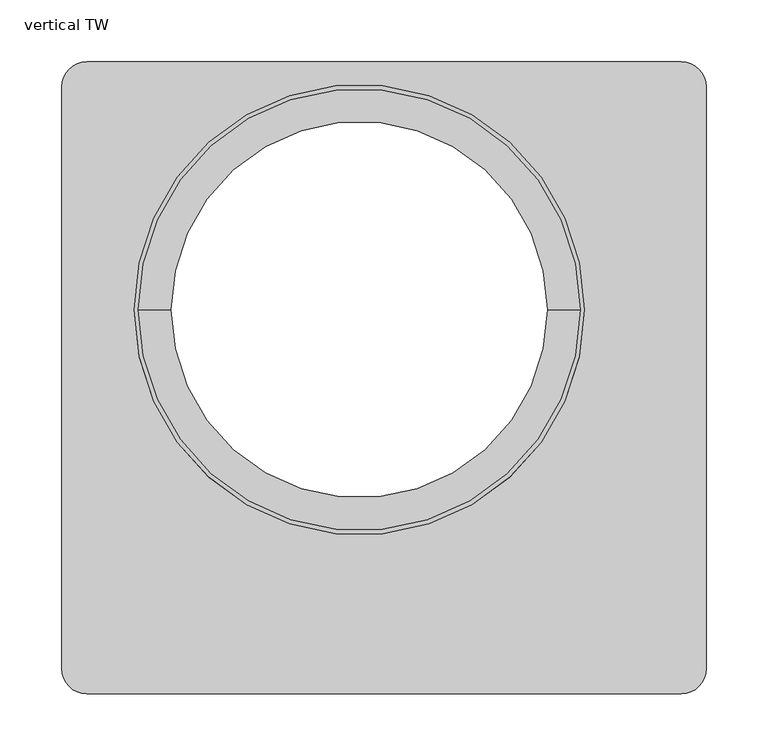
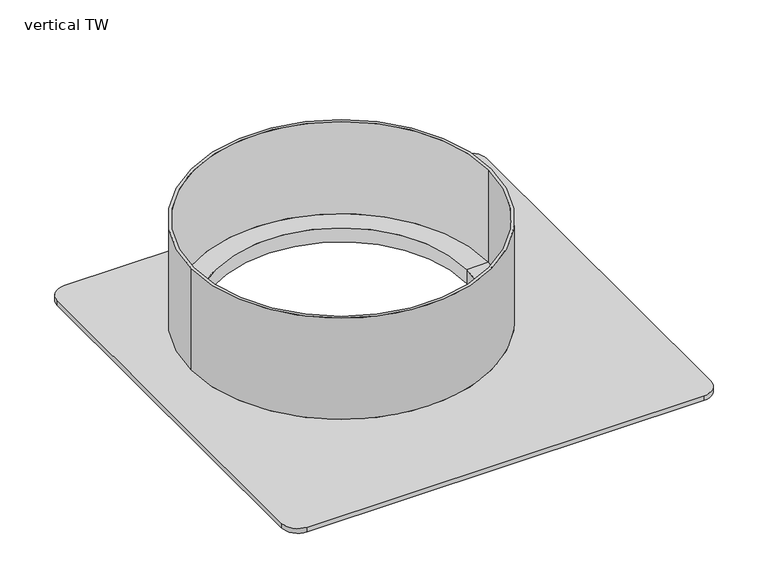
"""IFC4 building model written with IfcOpenShell, lengths in millimetres: unitary equipment geometry, Wavin_MechanicalEquipment_QBicPlusZDoNotUsePipeAdaptor : vertical TW."""

from ifc_helpers import new_model, si_unit, frame, origin, origin_with_axes, place, context, project, spatial, polyline, circle_curve, source, transform, mapped, element, save
from ifc_brep_helpers import plane_surface, cylinder_surface, revolved_surface, advanced_brep


def vertical_tw_6a955b7c(model_context):
    return source(origin(), model_context, "Body", "AdvancedBrep", [
        advanced_brep(
        [(260.0, 200.0, 6.0), (-220.0, 200.0, 6.0), (-240.0, 180.0, 6.0), (-240.0, -290.0, 6.0), (-220.0, -310.0, 6.0), (260.0, -310.0, 6.0), (280.0, -290.0, 6.0), (280.0, 180.0, 6.0), (181.75, 0.0, 6.0), (-181.75, 0.0, 6.0), (260.0, 200.0, 0.0), (-220.0, 200.0, 0.0), (-240.0, 180.0, 0.0), (-240.0, -290.0, 0.0), (-220.0, -310.0, 0.0), (260.0, -310.0, 0.0), (280.0, -290.0, 0.0), (280.0, 180.0, 0.0), (-181.75, 0.0, 136.0), (181.75, 0.0, 136.0), (-178.25, 0.0, 136.0), (178.25, 0.0, 136.0), (152.0, 0.0, 0.0), (-152.0, 0.0, 0.0), (178.25, 0.0, 18.0), (-178.25, 0.0, 18.0), (-152.0, 0.0, 18.0), (152.0, 0.0, 18.0), (-152.0, 0.0, 6.0), (152.0, 0.0, 6.0)],
        [
            (0, 1),
            (1, 2, circle_curve(frame((-220.0, 180.0, 6.0), z_axis=(0.0, 0.0, 1.0), x_axis=(1.0, 0.0, 0.0)), 20.0)),
            (2, 3),
            (3, 4, circle_curve(frame((-220.0, -290.0, 6.0), z_axis=(0.0, 0.0, 1.0), x_axis=(1.0, 0.0, 0.0)), 20.0)),
            (4, 5),
            (5, 6, circle_curve(frame((260.0, -290.0, 6.0), z_axis=(0.0, 0.0, 1.0), x_axis=(1.0, 0.0, 0.0)), 20.0)),
            (6, 7),
            (7, 0, circle_curve(frame((260.0, 180.0, 6.0), z_axis=(0.0, 0.0, 1.0), x_axis=(1.0, 0.0, 0.0)), 20.0)),
            (8, 9, circle_curve(frame((0.0, 0.0, 6.0), z_axis=(0.0, 0.0, -1.0), x_axis=(1.0, 0.0, 0.0)), 181.75)),
            (9, 8, circle_curve(frame((0.0, 0.0, 6.0), z_axis=(0.0, 0.0, -1.0), x_axis=(1.0, 0.0, 0.0)), 181.75)),
            (0, 10),
            (10, 11),
            (11, 1),
            (2, 12),
            (12, 13),
            (13, 3),
            (4, 14),
            (14, 15),
            (15, 5),
            (6, 16),
            (16, 17),
            (17, 7),
            (18, 19, circle_curve(frame((0.0, 0.0, 136.0), z_axis=(0.0, 0.0, 1.0), x_axis=(1.0, 0.0, 0.0)), 181.75)),
            (19, 18, circle_curve(frame((0.0, 0.0, 136.0), z_axis=(0.0, 0.0, 1.0), x_axis=(1.0, 0.0, 0.0)), 181.75)),
            (20, 21, circle_curve(frame((0.0, 0.0, 136.0), z_axis=(0.0, 0.0, -1.0), x_axis=(-1.0, 0.0, 0.0)), 178.25)),
            (21, 20, circle_curve(frame((0.0, 0.0, 136.0), z_axis=(0.0, 0.0, -1.0), x_axis=(-1.0, 0.0, 0.0)), 178.25)),
            (10, 17, circle_curve(frame((260.0, 180.0, 0.0), z_axis=(0.0, 0.0, -1.0), x_axis=(1.0, 0.0, 0.0)), 20.0)),
            (16, 15, circle_curve(frame((260.0, -290.0, 0.0), z_axis=(0.0, 0.0, -1.0), x_axis=(1.0, 0.0, 0.0)), 20.0)),
            (14, 13, circle_curve(frame((-220.0, -290.0, 0.0), z_axis=(0.0, 0.0, -1.0), x_axis=(1.0, 0.0, 0.0)), 20.0)),
            (12, 11, circle_curve(frame((-220.0, 180.0, 0.0), z_axis=(0.0, 0.0, -1.0), x_axis=(1.0, 0.0, 0.0)), 20.0)),
            (22, 23, circle_curve(frame((0.0, 0.0, 0.0), z_axis=(0.0, 0.0, 1.0), x_axis=(-1.0, 0.0, 0.0)), 152.0)),
            (23, 22, circle_curve(frame((0.0, 0.0, 0.0), z_axis=(0.0, 0.0, 1.0), x_axis=(-1.0, 0.0, 0.0)), 152.0)),
            (18, 9),
            (8, 19),
            (24, 21),
            (20, 25),
            (25, 24, circle_curve(frame((0.0, 0.0, 18.0), z_axis=(0.0, 0.0, -1.0), x_axis=(-1.0, 0.0, 0.0)), 178.25)),
            (24, 25, circle_curve(frame((0.0, 0.0, 18.0), z_axis=(0.0, 0.0, -1.0), x_axis=(-1.0, 0.0, 0.0)), 178.25)),
            (25, 26),
            (26, 27, circle_curve(frame((0.0, 0.0, 18.0), z_axis=(0.0, 0.0, -1.0), x_axis=(-1.0, 0.0, 0.0)), 152.0)),
            (27, 24),
            (27, 26, circle_curve(frame((0.0, 0.0, 18.0), z_axis=(0.0, 0.0, -1.0), x_axis=(-1.0, 0.0, 0.0)), 152.0)),
            (26, 28),
            (28, 23),
            (22, 29),
            (29, 27),
        ],
        [
            plane_surface(frame((-220.0, 200.0, 6.0), z_axis=(0.0, 0.0, 1.0), x_axis=(-1.0, 0.0, 0.0))),
            plane_surface(frame((260.0, 200.0, 6.0), z_axis=(0.0, 1.0, 0.0), x_axis=(0.0, 0.0, -1.0))),
            plane_surface(frame((-240.0, 180.0, 6.0), z_axis=(-1.0, 0.0, 0.0), x_axis=(0.0, 0.0, -1.0))),
            plane_surface(frame((-220.0, -310.0, 6.0), z_axis=(0.0, -1.0, 0.0), x_axis=(0.0, 0.0, -1.0))),
            plane_surface(frame((280.0, -290.0, 6.0), z_axis=(1.0, 0.0, 0.0), x_axis=(0.0, 0.0, -1.0))),
            plane_surface(frame((181.75, 0.0, 136.0), z_axis=(0.0, 0.0, 1.0), x_axis=(0.0, 1.0, 0.0))),
            plane_surface(frame((181.75, 0.0, 0.0), z_axis=(0.0, 0.0, -1.0), x_axis=(0.0, -1.0, 0.0))),
            cylinder_surface(origin_with_axes(), 181.75),
            revolved_surface(polyline([(-178.25, 0.0, 18.0), (-178.25, 0.0, 136.0)]), (0.0, 0.0, -381.0), (0.0, 0.0, -1.0)),
            plane_surface(frame((0.0, 0.0, 18.0), z_axis=(0.0, 0.0, 1.0), x_axis=(-1.0, 0.0, 0.0))),
            revolved_surface(polyline([(-152.0, 0.0, 0.0), (-152.0, 0.0, 18.0)]), (0.0, 0.0, -381.0), (0.0, 0.0, -1.0)),
            cylinder_surface(frame((-220.0, 180.0, 0.0), z_axis=(0.0, 0.0, 1.0), x_axis=(1.0, 0.0, 0.0)), 20.0),
            cylinder_surface(frame((-220.0, -290.0, 0.0), z_axis=(0.0, 0.0, 1.0), x_axis=(1.0, 0.0, 0.0)), 20.0),
            cylinder_surface(frame((260.0, -290.0, 0.0), z_axis=(0.0, 0.0, 1.0), x_axis=(1.0, 0.0, 0.0)), 20.0),
            cylinder_surface(frame((260.0, 180.0, 0.0), z_axis=(0.0, 0.0, 1.0), x_axis=(1.0, 0.0, 0.0)), 20.0),
        ],
        [
            (0, [[1, 2, 3, 4, 5, 6, 7, 8], [9, 10]]),
            (1, [[-1, 11, 12, 13]]),
            (2, [[-3, 14, 15, 16]]),
            (3, [[-5, 17, 18, 19]]),
            (4, [[-7, 20, 21, 22]]),
            (5, [[23, 24], [25, 26]]),
            (6, [[27, -21, 28, -18, 29, -15, 30, -12], [31, 32]]),
            (7, [[-23, 33, -9, 34]]),
            (7, [[-24, -34, -10, -33]]),
            (8, [[35, -25, 36, 37]]),
            (8, [[-35, 38, -36, -26]]),
            (9, [[-37, 39, 40, 41]]),
            (9, [[-38, -41, 42, -39]]),
            (10, [[-40, 43, 44, -31, 45, 46]]),
            (10, [[-42, -46, -45, -32, -44, -43]]),
            (11, [[-2, -13, -30, -14]]),
            (12, [[-4, -16, -29, -17]]),
            (13, [[-6, -19, -28, -20]]),
            (14, [[-8, -22, -27, -11]]),
        ],
    ),
    ])


if __name__ == "__main__":
    model = new_model("IFC4")
    model_context = context("Model", 3, world=origin())
    ifc_project = project(units=[si_unit("LENGTHUNIT", "METRE", prefix="MILLI")], contexts=[model_context])
    site = spatial("IfcSite", under=ifc_project)
    building = spatial("IfcBuilding", under=site)
    placement = place(None, origin())
    vertical_tw_shape = vertical_tw_6a955b7c(model_context)
    element("IfcUnitaryEquipment", 1, ObjectType="Wavin_MechanicalEquipment_QBicPlusZDoNotUsePipeAdaptor : vertical TW", at=placement, inside=building, context=model_context, shape_type="MappedRepresentation", body=[
        mapped(vertical_tw_shape, transform((0.0, 0.0, 0.0), x_axis=(1.0, 0.0, 0.0), y_axis=(0.0, 1.0, 0.0), z_axis=(0.0, 0.0, 1.0))),
    ])
    save(model, "model.ifc")
